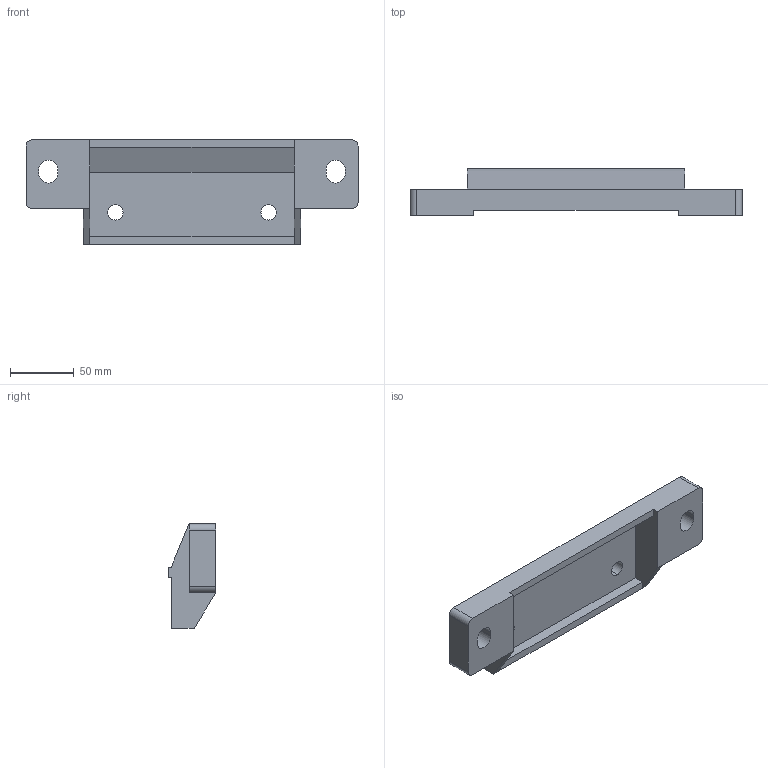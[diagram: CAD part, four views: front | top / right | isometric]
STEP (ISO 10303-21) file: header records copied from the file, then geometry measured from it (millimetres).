
FILE_DESCRIPTION (( 'STEP AP203' ), '1' );
FILE_NAME ('160菁褐M.STEP', '2023-02-21T10:22:28', ( '' ), ( '' ), 'SwSTEP 2.0', 'SolidWorks 2018', '' );
FILE_SCHEMA (( 'CONFIG_CONTROL_DESIGN' ));
Length unit declared in the file: millimetre
Products named in the file (1): 160菁褐M
Bounding box: 260 x 37.5 x 82 mm (x, y, z)
Volume: 250346.2 mm3; surface area: 61565.9 mm2
Topology: 1 solids, 1 shells, 45 faces, 123 edges, 80 vertices
Faces by surface type: plane 31, cylinder 14
Entity records: 1510 total; most frequent: CARTESIAN_POINT 249, ORIENTED_EDGE 246, DIRECTION 243, EDGE_CURVE 123, LINE 95, VECTOR 95, VERTEX_POINT 80, AXIS2_PLACEMENT_3D 74
